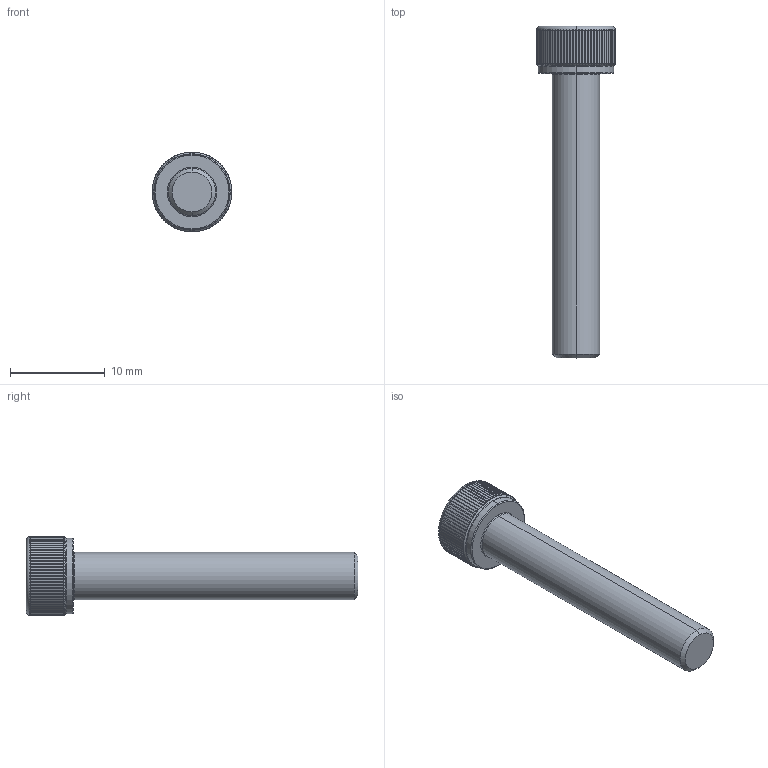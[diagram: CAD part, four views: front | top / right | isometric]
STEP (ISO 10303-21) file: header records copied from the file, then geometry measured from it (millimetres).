
FILE_DESCRIPTION (( 'STEP AP203' ), '1' );
FILE_NAME ('LGDT-304-M5x30.STEP', '2026-08-10T03:56:57', ( '' ), ( '' ), 'SwSTEP 2.0', 'SolidWorks 2020', '' );
FILE_SCHEMA (( 'CONFIG_CONTROL_DESIGN' ));
Length unit declared in the file: millimetre
Products named in the file (1): LGDT-304-M5x30
Bounding box: 8.4 x 35 x 8.4 mm (x, y, z)
Volume: 817.1 mm3; surface area: 739.9 mm2
Topology: 1 solids, 1 shells, 204 faces, 576 edges, 376 vertices
Faces by surface type: cylinder 175, cone 11, plane 10, torus 8
Entity records: 8367 total; most frequent: CARTESIAN_POINT 3208, ORIENTED_EDGE 1152, DIRECTION 988, EDGE_CURVE 576, AXIS2_PLACEMENT_3D 398, VERTEX_POINT 376, EDGE_LOOP 206, FACE_OUTER_BOUND 204
